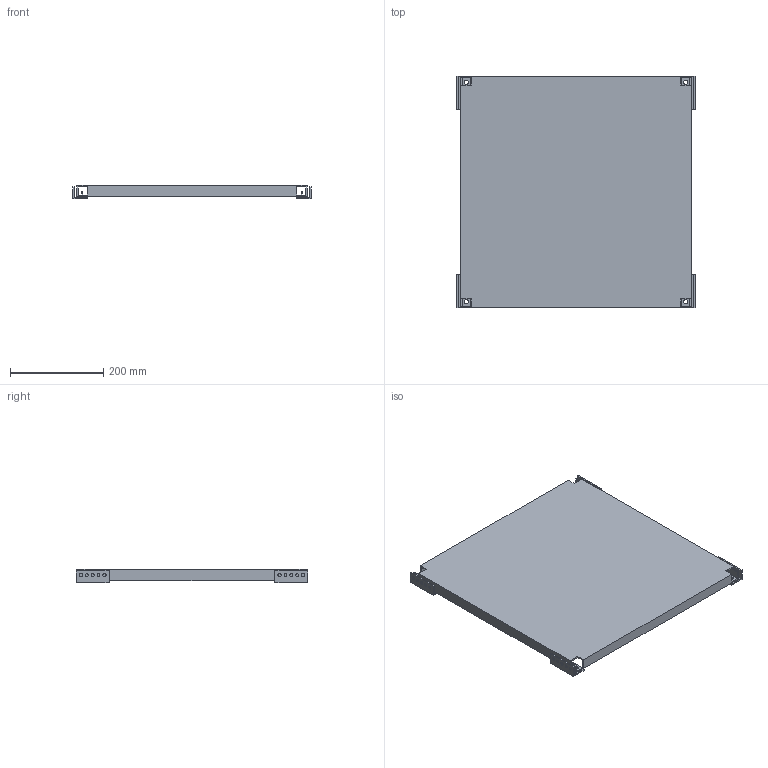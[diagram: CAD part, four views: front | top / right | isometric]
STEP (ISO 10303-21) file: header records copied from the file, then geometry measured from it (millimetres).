
FILE_DESCRIPTION( ( 'STEP AP214' ), '1' );
FILE_NAME( 'p:/temp/worker_191/temp/exporttempdir_3844_222_TF1Zu/format_0/MPP0606(0).stp', '2021-03-16T09:47:49', ( 'License CC BY-ND 4.0' ), ( 'CADENAS' ), ' ', 'PARTsolutions', ' ' );
FILE_SCHEMA( ( 'AUTOMOTIVE_DESIGN { 1 0 10303 214 1 1 1 1 }' ) );
Length unit declared in the file: millimetre
Products named in the file (3): MPP0606(0); _MPP0606(0)_P4; _MPP(0)_P1
Assembly tree (5 placements, depth 2):
  MPP0606(0)
    _MPP0606(0)_P4
    _MPP(0)_P1  x4
Bounding box: 510 x 495 x 28.3 mm (x, y, z)
Volume: 936291.6 mm3; surface area: 638132.4 mm2
Topology: 5 solids, 5 shells, 170 faces, 472 edges, 312 vertices
Faces by surface type: plane 138, cylinder 32
Full cylindrical faces by diameter (mm): 6 x8, 7 x12, 9 x4, 10 x8
Entity records: 3402 total; most frequent: CARTESIAN_POINT 469, ORIENTED_EDGE 448, DIRECTION 424, EDGE_CURVE 224, LINE 202, VECTOR 202, VERTEX_POINT 156, EDGE_LOOP 124
